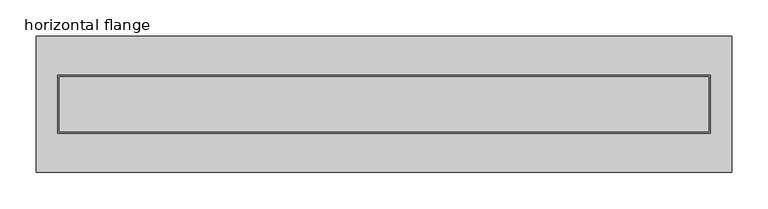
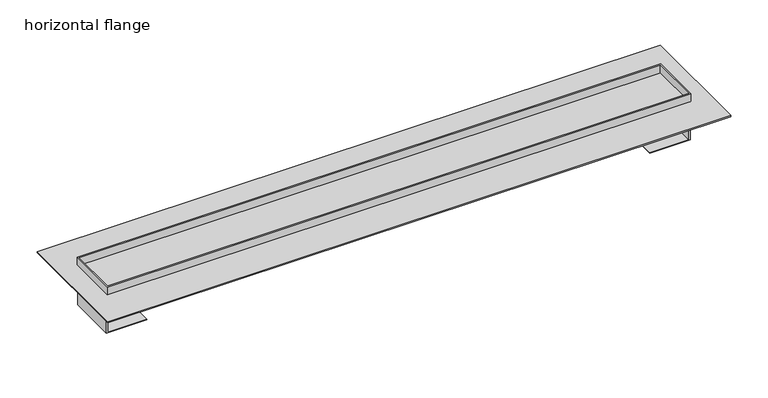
"""IFC4 building model written with IfcOpenShell, lengths in millimetres: sanitary terminal geometry, PF_ST_UN_ShowerDrain M plus_ACO : horizontal flange."""

from ifc_helpers import new_model, si_unit, frame, origin, origin_with_axes, place, context, project, spatial, polyline, outline, extrude, faceted_brep, source, transform, mapped, element, save


def horizontal_flange_b8bb8d62(model_context):
    return source(origin(), model_context, "Body", "SolidModel", [
        extrude(outline(polyline([(480.0, 94.0), (480.0, -94.0), (-480.0, -94.0), (-480.0, 94.0), (480.0, 94.0)])), origin_with_axes(), (0.0, 0.0, 1.0), 2.0),
        extrude(outline(polyline([(-16.5, -448.0), (-16.5, -450.0), (-61.5, -450.0), (-61.5, -388.0), (-60.5, -388.0), (-60.5, -448.0), (-16.5, -448.0)])), frame((0.0, -38.0, 0.0), z_axis=(0.0, 1.0, 0.0), x_axis=(0.0, 0.0, 1.0)), (0.0, 0.0, 1.0), 76.0),
        extrude(outline(polyline([(-16.5, 448.0), (-60.5, 448.0), (-60.5, 388.0), (-61.5, 388.0), (-61.5, 450.0), (-16.5, 450.0), (-16.5, 448.0)])), frame((0.0, -38.0, 0.0), z_axis=(0.0, 1.0, 0.0), x_axis=(0.0, 0.0, 1.0)), (0.0, 0.0, 1.0), 76.0),
        faceted_brep([(450.0, 40.0, 15.0), (-450.0, 40.0, 15.0), (-450.0, -40.0, 15.0), (450.0, -40.0, 15.0), (-448.0, -38.0, 15.0), (-448.0, 38.0, 15.0), (448.0, 38.0, 15.0), (448.0, -38.0, 15.0), (450.0, 40.0, -16.5), (450.0, -40.0, -16.5), (-450.0, -40.0, -16.5), (-450.0, 40.0, -16.5), (-448.0, 38.0, -6.0), (-448.0, -38.0, -6.0), (448.0, -38.0, -6.0), (448.0, 38.0, -6.0)], [[[0, 1, 2, 3], [4, 5, 6, 7]], [[8, 9, 10, 11]], [[1, 0, 8, 11]], [[2, 1, 11, 10]], [[3, 2, 10, 9]], [[0, 3, 9, 8]], [[12, 13, 14, 15]], [[13, 12, 5, 4]], [[14, 13, 4, 7]], [[15, 14, 7, 6]], [[12, 15, 6, 5]]]),
    ])


if __name__ == "__main__":
    model = new_model("IFC4")
    model_context = context("Model", 3, world=origin())
    ifc_project = project(units=[si_unit("LENGTHUNIT", "METRE", prefix="MILLI")], contexts=[model_context])
    site = spatial("IfcSite", under=ifc_project)
    building = spatial("IfcBuilding", under=site)
    placement = place(None, origin())
    horizontal_flange_shape = horizontal_flange_b8bb8d62(model_context)
    element("IfcSanitaryTerminal", 1, ObjectType="PF_ST_UN_ShowerDrain M plus_ACO : horizontal flange", at=placement, inside=building, context=model_context, shape_type="MappedRepresentation", body=[
        mapped(horizontal_flange_shape, transform((0.0, 0.0, 0.0), x_axis=(1.0, 0.0, 0.0), y_axis=(0.0, 1.0, 0.0), z_axis=(0.0, 0.0, 1.0))),
    ])
    save(model, "model.ifc")
